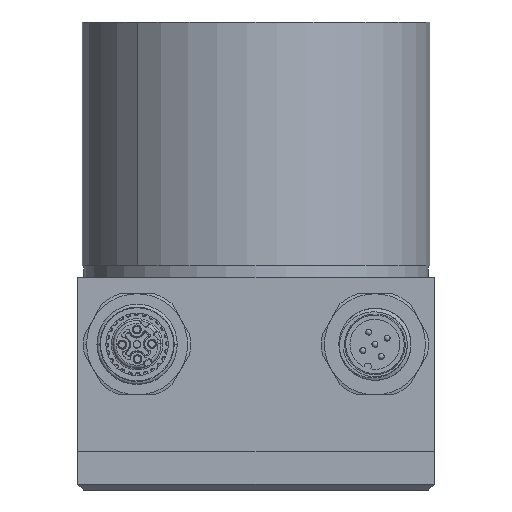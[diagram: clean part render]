
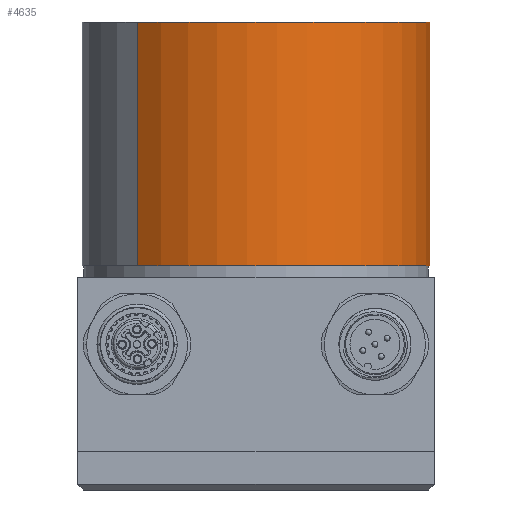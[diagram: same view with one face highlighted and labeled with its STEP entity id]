
A CAD part, front view. The second image highlights one B-rep face of the part: STEP entity #4635.
In plain terms, the highlighted cylindrical face has radius 29.3 mm (diameter 58.6 mm), a partial arc.
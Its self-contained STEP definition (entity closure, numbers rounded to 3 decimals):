
#113 = CARTESIAN_POINT ( 'NONE',  ( 0., 0., 37.7 ) ) ;
#1259 = ORIENTED_EDGE ( 'NONE', *, *, #21816, .F. ) ;
#2205 = CARTESIAN_POINT ( 'NONE',  ( -19.98, -21.431, 37.7 ) ) ;
#2633 = CARTESIAN_POINT ( 'NONE',  ( 19.98, 21.431, 37.7 ) ) ;
#2675 = CYLINDRICAL_SURFACE ( 'NONE', #25081, 29.3 ) ;
#3964 = EDGE_LOOP ( 'NONE', ( #12633, #1259, #16060, #12680 ) ) ;
#4328 = DIRECTION ( 'NONE',  ( 0., 0., 1. ) ) ;
#4379 = DIRECTION ( 'NONE',  ( 0., 0., 1. ) ) ;
#4635 = ADVANCED_FACE ( 'NONE', ( #13842 ), #2675, .T. ) ;
#5358 = CARTESIAN_POINT ( 'NONE',  ( 0., 0., 37.7 ) ) ;
#6069 = VECTOR ( 'NONE', #4328, 1000. ) ;
#7055 = DIRECTION ( 'NONE',  ( 0., 0., 1. ) ) ;
#7516 = DIRECTION ( 'NONE',  ( -0.682, -0.731, 0. ) ) ;
#8232 = CIRCLE ( 'NONE', #22621, 29.3 ) ;
#9802 = LINE ( 'NONE', #23893, #25904 ) ;
#10754 = CARTESIAN_POINT ( 'NONE',  ( 0., 0., 78.7 ) ) ;
#12117 = VERTEX_POINT ( 'NONE', #27213 ) ;
#12633 = ORIENTED_EDGE ( 'NONE', *, *, #17568, .F. ) ;
#12680 = ORIENTED_EDGE ( 'NONE', *, *, #14428, .T. ) ;
#12814 = VERTEX_POINT ( 'NONE', #2633 ) ;
#12837 = VERTEX_POINT ( 'NONE', #13183 ) ;
#12842 = DIRECTION ( 'NONE',  ( -0.682, -0.731, 0. ) ) ;
#13183 = CARTESIAN_POINT ( 'NONE',  ( -19.98, -21.431, 78.7 ) ) ;
#13842 = FACE_OUTER_BOUND ( 'NONE', #3964, .T. ) ;
#14428 = EDGE_CURVE ( 'NONE', #21617, #12837, #15541, .T. ) ;
#15541 = CIRCLE ( 'NONE', #20158, 29.3 ) ;
#16060 = ORIENTED_EDGE ( 'NONE', *, *, #23147, .T. ) ;
#17249 = LINE ( 'NONE', #2205, #6069 ) ;
#17568 = EDGE_CURVE ( 'NONE', #12117, #12837, #17249, .T. ) ;
#19214 = CARTESIAN_POINT ( 'NONE',  ( 19.98, 21.431, 78.7 ) ) ;
#20128 = DIRECTION ( 'NONE',  ( 0., 0., -1. ) ) ;
#20158 = AXIS2_PLACEMENT_3D ( 'NONE', #10754, #25460, #12842 ) ;
#21617 = VERTEX_POINT ( 'NONE', #19214 ) ;
#21816 = EDGE_CURVE ( 'NONE', #12814, #12117, #8232, .T. ) ;
#22621 = AXIS2_PLACEMENT_3D ( 'NONE', #5358, #20128, #7516 ) ;
#23147 = EDGE_CURVE ( 'NONE', #12814, #21617, #9802, .T. ) ;
#23363 = DIRECTION ( 'NONE',  ( 0.682, 0.731, 0. ) ) ;
#23893 = CARTESIAN_POINT ( 'NONE',  ( 19.98, 21.431, 37.7 ) ) ;
#25081 = AXIS2_PLACEMENT_3D ( 'NONE', #113, #4379, #23363 ) ;
#25460 = DIRECTION ( 'NONE',  ( 0., 0., -1. ) ) ;
#25904 = VECTOR ( 'NONE', #7055, 1000. ) ;
#27213 = CARTESIAN_POINT ( 'NONE',  ( -19.98, -21.431, 37.7 ) ) ;
